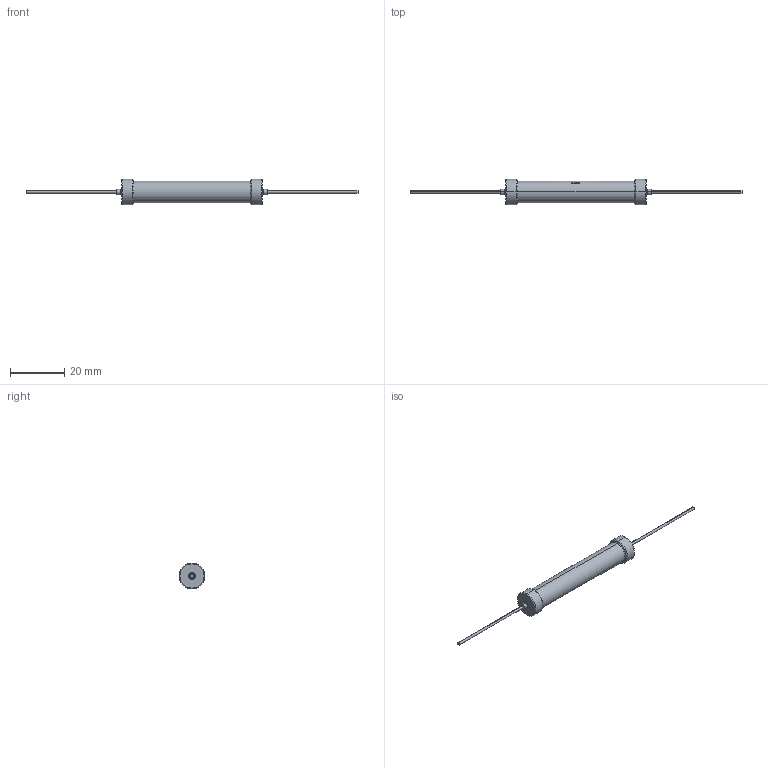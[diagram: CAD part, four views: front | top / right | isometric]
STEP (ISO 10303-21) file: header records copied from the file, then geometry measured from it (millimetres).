
FILE_DESCRIPTION (( 'STEP AP203' ), '1' );
FILE_NAME ('HVHR5208.STEP', '2024-10-25T03:08:33', ( '' ), ( '' ), 'SwSTEP 2.0', 'SolidWorks 2022', '' );
FILE_SCHEMA (( 'CONFIG_CONTROL_DESIGN' ));
Length unit declared in the file: millimetre
Products named in the file (1): HVHR5208
Bounding box: 122.6 x 9.5 x 9.5 mm (x, y, z)
Volume: 2854.4 mm3; surface area: 4590.3 mm2
Topology: 4 solids, 4 shells, 414 faces, 1061 edges, 698 vertices
Faces by surface type: bspline 186, plane 135, cylinder 65, torus 28
Entity records: 23204 total; most frequent: CARTESIAN_POINT 14566, ORIENTED_EDGE 2122, DIRECTION 1159, EDGE_CURVE 1061, VERTEX_POINT 698, B_SPLINE_CURVE_WITH_KNOTS 586, EDGE_LOOP 459, AXIS2_PLACEMENT_3D 455
